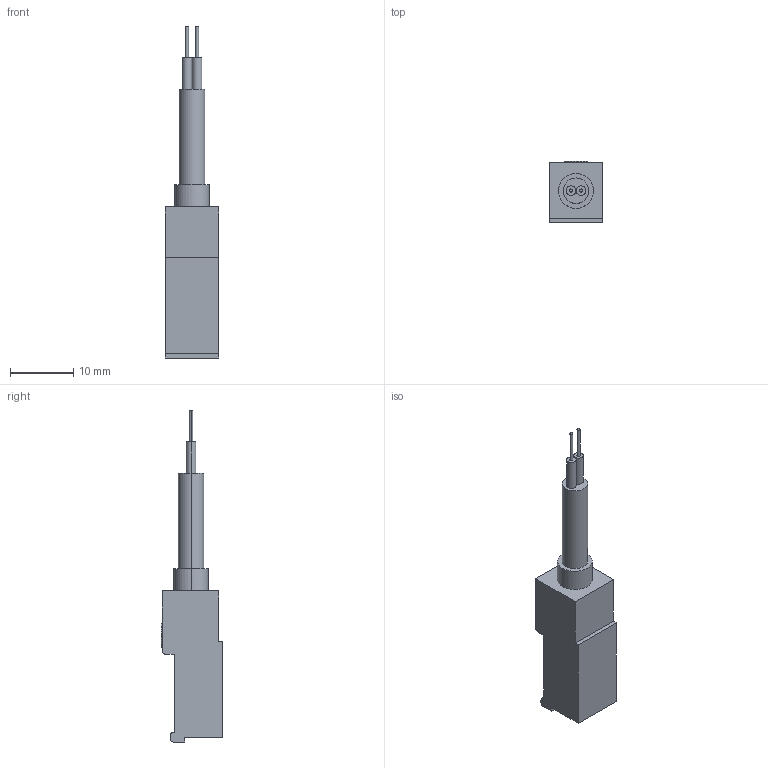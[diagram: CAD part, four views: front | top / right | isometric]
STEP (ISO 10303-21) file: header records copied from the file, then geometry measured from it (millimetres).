
FILE_DESCRIPTION (( 'STEP AP203' ), '1' );
FILE_NAME ('MT-2(3).STEP', '2016-06-21T01:09:13', ( '' ), ( '' ), 'SwSTEP 2.0', 'SolidWorks 2014', '' );
FILE_SCHEMA (( 'CONFIG_CONTROL_DESIGN' ));
Length unit declared in the file: millimetre
Products named in the file (1): MT-2(3)
Bounding box: 8.5 x 9.7 x 52.3 mm (x, y, z)
Volume: 1927.8 mm3; surface area: 1270.4 mm2
Topology: 1 solids, 1 shells, 38 faces, 87 edges, 58 vertices
Faces by surface type: plane 21, cylinder 17
Entity records: 1162 total; most frequent: DIRECTION 199, CARTESIAN_POINT 184, ORIENTED_EDGE 174, EDGE_CURVE 87, AXIS2_PLACEMENT_3D 73, VERTEX_POINT 58, VECTOR 53, LINE 53
